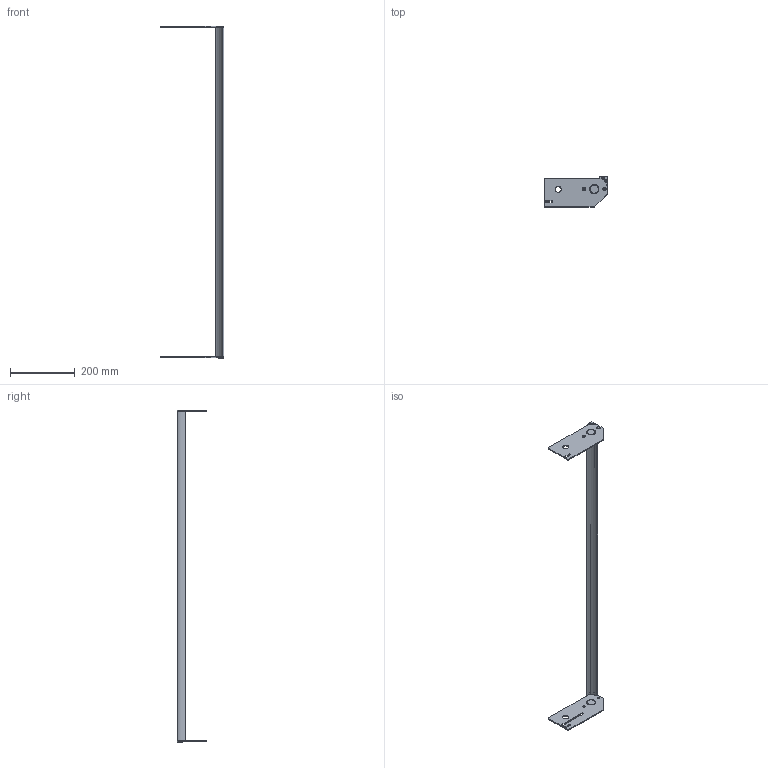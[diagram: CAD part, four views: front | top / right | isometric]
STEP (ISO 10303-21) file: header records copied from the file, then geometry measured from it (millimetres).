
FILE_DESCRIPTION((''),'2;1');
FILE_NAME('27M3301-36_ASM','2018-05-11T',('james.horst'),(''),'PRO/ENGINEER BY PARAMETRIC TECHNOLOGY CORPORATION, 2012420','PRO/ENGINEER BY PARAMETRIC TECHNOLOGY CORPORATION, 2012420','');
FILE_SCHEMA(('CONFIG_CONTROL_DESIGN'));
Length unit declared in the file: inch
Products named in the file (7): 350539-10; 350538_1; 350537_1; 9304XXM_930410M_1; 351040-30_ASM_1_ASM; 27M3301-30_ASM_1_ASM; 27M3301-36_ASM
Assembly tree (9 placements, depth 4):
  27M3301-36_ASM
    27M3301-30_ASM_1_ASM
      351040-30_ASM_1_ASM
        350539-10
        350538_1
        350537_1
        9304XXM_930410M_1  x4
Bounding box: 196.06 x 92.74 x 1028.34 mm (x, y, z)
Volume: 387696.1 mm3; surface area: 183094.9 mm2
Topology: 7 solids, 11 shells, 227 faces, 565 edges, 356 vertices
Faces by surface type: cylinder 87, plane 80, cone 60
Entity records: 5369 total; most frequent: CARTESIAN_POINT 977, DIRECTION 968, ORIENTED_EDGE 832, EDGE_CURVE 424, AXIS2_PLACEMENT_3D 377, VERTEX_POINT 278, VECTOR 214, LINE 214
